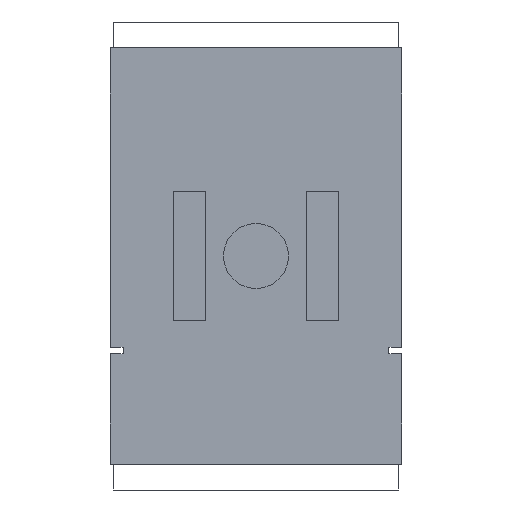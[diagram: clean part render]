
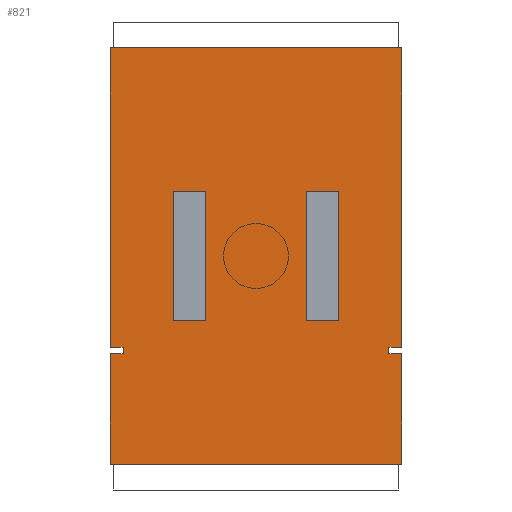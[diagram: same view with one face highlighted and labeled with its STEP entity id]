
A CAD part, left-side view. The second image highlights one B-rep face of the part: STEP entity #821.
In plain terms, the highlighted planar face has unit normal (-1, 0, 0).
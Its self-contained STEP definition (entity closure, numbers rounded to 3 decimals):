
#61=FACE_OUTER_BOUND('',#109,.T.);
#109=EDGE_LOOP('',(#614,#615,#616,#617,#618,#619,#620,#621,#622,#623,#624,
#625));
#144=LINE('',#1152,#254);
#148=LINE('',#1160,#258);
#151=LINE('',#1166,#261);
#154=LINE('',#1173,#264);
#158=LINE('',#1181,#268);
#161=LINE('',#1187,#271);
#164=LINE('',#1193,#274);
#173=LINE('',#1209,#283);
#174=LINE('',#1212,#284);
#176=LINE('',#1215,#286);
#178=LINE('',#1219,#288);
#179=LINE('',#1221,#289);
#254=VECTOR('',#936,10.);
#258=VECTOR('',#942,10.);
#261=VECTOR('',#947,10.);
#264=VECTOR('',#952,10.);
#268=VECTOR('',#958,10.);
#271=VECTOR('',#963,10.);
#274=VECTOR('',#968,10.);
#283=VECTOR('',#981,10.);
#284=VECTOR('',#984,10.);
#286=VECTOR('',#988,10.);
#288=VECTOR('',#992,10.);
#289=VECTOR('',#995,10.);
#364=VERTEX_POINT('',#1150);
#365=VERTEX_POINT('',#1151);
#368=VERTEX_POINT('',#1159);
#370=VERTEX_POINT('',#1165);
#372=VERTEX_POINT('',#1171);
#373=VERTEX_POINT('',#1172);
#376=VERTEX_POINT('',#1180);
#378=VERTEX_POINT('',#1186);
#380=VERTEX_POINT('',#1192);
#385=VERTEX_POINT('',#1207);
#386=VERTEX_POINT('',#1211);
#387=VERTEX_POINT('',#1217);
#440=EDGE_CURVE('',#364,#365,#144,.T.);
#444=EDGE_CURVE('',#368,#364,#148,.T.);
#447=EDGE_CURVE('',#365,#370,#151,.T.);
#450=EDGE_CURVE('',#372,#373,#154,.T.);
#454=EDGE_CURVE('',#376,#372,#158,.T.);
#457=EDGE_CURVE('',#378,#376,#161,.T.);
#460=EDGE_CURVE('',#380,#368,#164,.T.);
#469=EDGE_CURVE('',#373,#385,#173,.T.);
#470=EDGE_CURVE('',#386,#378,#174,.T.);
#472=EDGE_CURVE('',#385,#380,#176,.T.);
#474=EDGE_CURVE('',#370,#387,#178,.T.);
#475=EDGE_CURVE('',#387,#386,#179,.T.);
#614=ORIENTED_EDGE('',*,*,#447,.T.);
#615=ORIENTED_EDGE('',*,*,#474,.T.);
#616=ORIENTED_EDGE('',*,*,#475,.T.);
#617=ORIENTED_EDGE('',*,*,#470,.T.);
#618=ORIENTED_EDGE('',*,*,#457,.T.);
#619=ORIENTED_EDGE('',*,*,#454,.T.);
#620=ORIENTED_EDGE('',*,*,#450,.T.);
#621=ORIENTED_EDGE('',*,*,#469,.T.);
#622=ORIENTED_EDGE('',*,*,#472,.T.);
#623=ORIENTED_EDGE('',*,*,#460,.T.);
#624=ORIENTED_EDGE('',*,*,#444,.T.);
#625=ORIENTED_EDGE('',*,*,#440,.T.);
#775=PLANE('',#893);
#821=ADVANCED_FACE('',(#61),#775,.F.);
#893=AXIS2_PLACEMENT_3D('',#1222,#996,#997);
#936=DIRECTION('',(0.,0.,1.));
#942=DIRECTION('',(0.,1.,0.));
#947=DIRECTION('',(0.,-1.,0.));
#952=DIRECTION('',(0.,1.,0.));
#958=DIRECTION('',(0.,0.,-1.));
#963=DIRECTION('',(0.,-1.,0.));
#968=DIRECTION('',(0.,0.,1.));
#981=DIRECTION('',(0.,0.,-1.));
#984=DIRECTION('',(0.,0.,-1.));
#988=DIRECTION('',(0.,-1.,0.));
#992=DIRECTION('',(0.,0.,1.));
#995=DIRECTION('',(0.,1.,0.));
#996=DIRECTION('center_axis',(1.,0.,0.));
#997=DIRECTION('ref_axis',(0.,0.,-1.));
#1150=CARTESIAN_POINT('',(0.,-20.5,-15.1));
#1151=CARTESIAN_POINT('',(0.,-20.5,-14.1));
#1152=CARTESIAN_POINT('',(0.,-20.5,-7.55));
#1159=CARTESIAN_POINT('',(0.,-22.5,-15.1));
#1160=CARTESIAN_POINT('',(0.,-11.25,-15.1));
#1165=CARTESIAN_POINT('',(0.,-22.5,-14.1));
#1166=CARTESIAN_POINT('',(0.,-10.25,-14.1));
#1171=CARTESIAN_POINT('',(0.,20.5,-15.1));
#1172=CARTESIAN_POINT('',(0.,22.5,-15.1));
#1173=CARTESIAN_POINT('',(0.,10.25,-15.1));
#1180=CARTESIAN_POINT('',(0.,20.5,-14.1));
#1181=CARTESIAN_POINT('',(0.,20.5,-7.05));
#1186=CARTESIAN_POINT('',(0.,22.5,-14.1));
#1187=CARTESIAN_POINT('',(0.,11.25,-14.1));
#1192=CARTESIAN_POINT('',(0.,-22.5,-32.1));
#1193=CARTESIAN_POINT('',(0.,-22.5,-32.1));
#1207=CARTESIAN_POINT('',(0.,22.5,-32.1));
#1209=CARTESIAN_POINT('',(0.,22.5,32.1));
#1211=CARTESIAN_POINT('',(0.,22.5,32.1));
#1212=CARTESIAN_POINT('',(0.,22.5,32.1));
#1215=CARTESIAN_POINT('',(0.,22.5,-32.1));
#1217=CARTESIAN_POINT('',(0.,-22.5,32.1));
#1219=CARTESIAN_POINT('',(0.,-22.5,-32.1));
#1221=CARTESIAN_POINT('',(0.,-22.5,32.1));
#1222=CARTESIAN_POINT('Origin',(0.,0.,0.));
